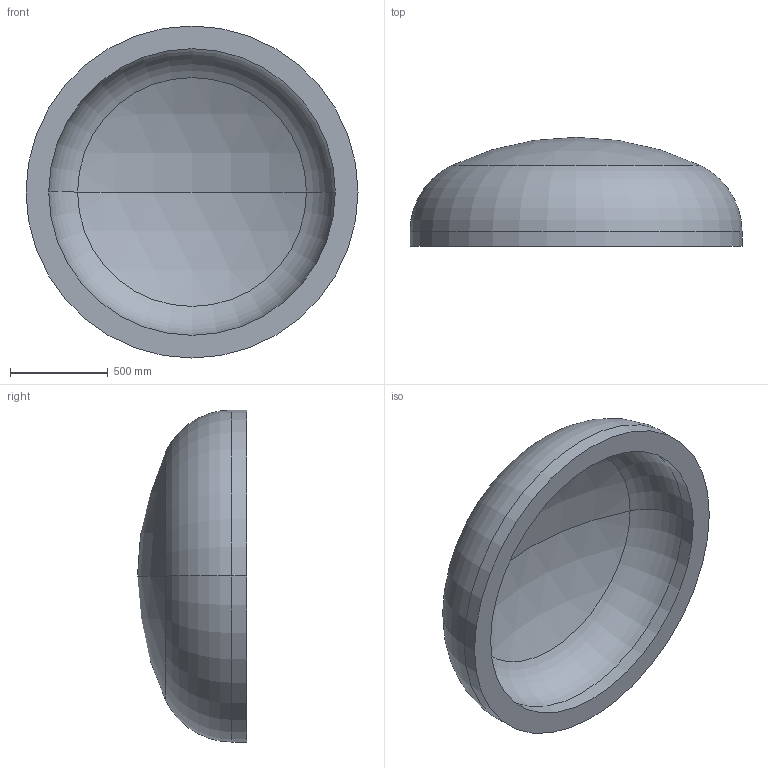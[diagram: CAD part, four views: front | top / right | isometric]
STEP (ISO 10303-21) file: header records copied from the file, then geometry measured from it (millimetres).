
FILE_DESCRIPTION (( 'STEP AP203' ), '1' );
FILE_NAME ('DIN 28013 Korbbogenform_-_Boden DIN 28013 - 1700 x 75 - I - s=116.step', '2016-07-01T12:11:55', ( '' ), ( '' ), 'SwSTEP 2.0', 'SolidWorks 2013', '' );
FILE_SCHEMA (( 'CONFIG_CONTROL_DESIGN' ));
Length unit declared in the file: millimetre
Products named in the file (1): DIN 28013 Korbbogenform_-_Boden DIN 28013 - 1700 x 75 - I - s=116
Bounding box: 1700 x 558.37 x 1700 mm (x, y, z)
Volume: 377288373.2 mm3; surface area: 7110401.4 mm2
Topology: 1 solids, 1 shells, 13 faces, 24 edges, 14 vertices
Faces by surface type: torus 4, cylinder 4, sphere 4, plane 1
Entity records: 407 total; most frequent: DIRECTION 72, CARTESIAN_POINT 52, ORIENTED_EDGE 48, AXIS2_PLACEMENT_3D 34, EDGE_CURVE 24, CIRCLE 20, EDGE_LOOP 14, VERTEX_POINT 14
